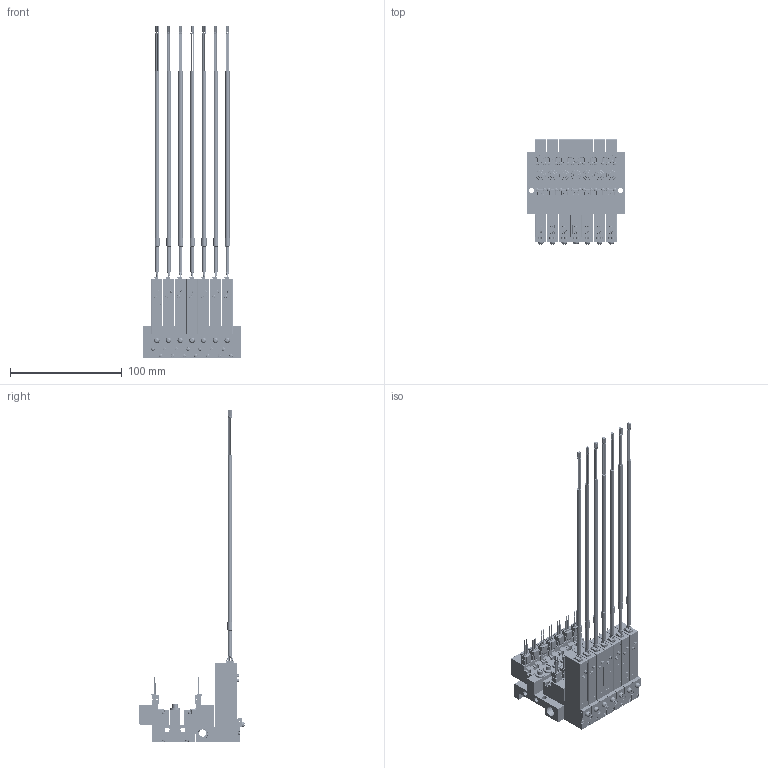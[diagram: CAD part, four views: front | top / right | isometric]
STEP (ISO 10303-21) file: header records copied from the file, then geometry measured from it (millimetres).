
FILE_DESCRIPTION(('STEP AP203'),'1');
FILE_NAME('1-NO(NC)-4EZ-M07-V9.stp','2025-05-08T08:54:04',(' '),(' '),'Spatial InterOp 3D',' ',' ');
FILE_SCHEMA(('CONFIG_CONTROL_DESIGN'));
Length unit declared in the file: millimetre
Products named in the file (233): PV1※1-NO(NC)-4EZ-M07-V9; BODY; PLATE; NEEDLE; BOLT; SOLENOID VALVE VOLTAGE PV; 42; 45; 48; 51; BRAKET(MPS-V9  PV용)NEW; BRAKET; MPS-V9AC.ics; __1; MPS-V9AC; MSBR-29_1; MSBR-28_1; MSBR-27_1; MSBR-26_1; MSBR-25_1; MSBR-24_1; MSBR-21_1; MSBR-7_1; MSBR-4_1; MSBR-1_1
Assembly tree (232 placements, depth 5):
  PV1※1-NO(NC)-4EZ-M07-V9
    BODY
    PLATE
    PLATE
    NEEDLE
    BOLT
    BOLT
    BOLT
    BOLT
    BOLT
    BOLT
    SOLENOID VALVE VOLTAGE PV
      42
      45
      48
      51
    SOLENOID VALVE VOLTAGE PV
      42
      45
      48
      51
    SOLENOID VALVE VOLTAGE PV
      42
      45
      48
      51
    NEEDLE
    SOLENOID VALVE VOLTAGE PV
      42
      45
      48
      51
    SOLENOID VALVE VOLTAGE PV
      42
      45
      48
      51
    NEEDLE
    SOLENOID VALVE VOLTAGE PV
      42
      45
      48
      51
    PLATE
    BOLT
    BOLT
    BOLT
    PLATE
    BOLT
    BOLT
    BOLT
    SOLENOID VALVE VOLTAGE PV
      42
      45
      48
      51
    NEEDLE
    SOLENOID VALVE VOLTAGE PV
      42
      45
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Bounding box: 87 x 94.29 x 297.25 mm (x, y, z)
Volume: 188282.9 mm3; surface area: 172791.7 mm2
Topology: 190 solids, 253 shells, 9132 faces, 25038 edges, 16967 vertices
Faces by surface type: plane 6974, cylinder 1617, torus 231, bspline 133, cone 79, extrusion 70, sphere 28
Full cylindrical faces by diameter (mm): 2 x21, 2.3 x14, 2.5 x7, 3 x35, 4.2 x16, 4.5 x2, 5 x14, 6.5 x1, 8.797 x2, 9 x7
Entity records: 304106 total; most frequent: CARTESIAN_POINT 58366, ORIENTED_EDGE 48656, DIRECTION 47547, EDGE_CURVE 24594, VECTOR 18453, LINE 18383, VERTEX_POINT 16826, AXIS2_PLACEMENT_3D 14547
